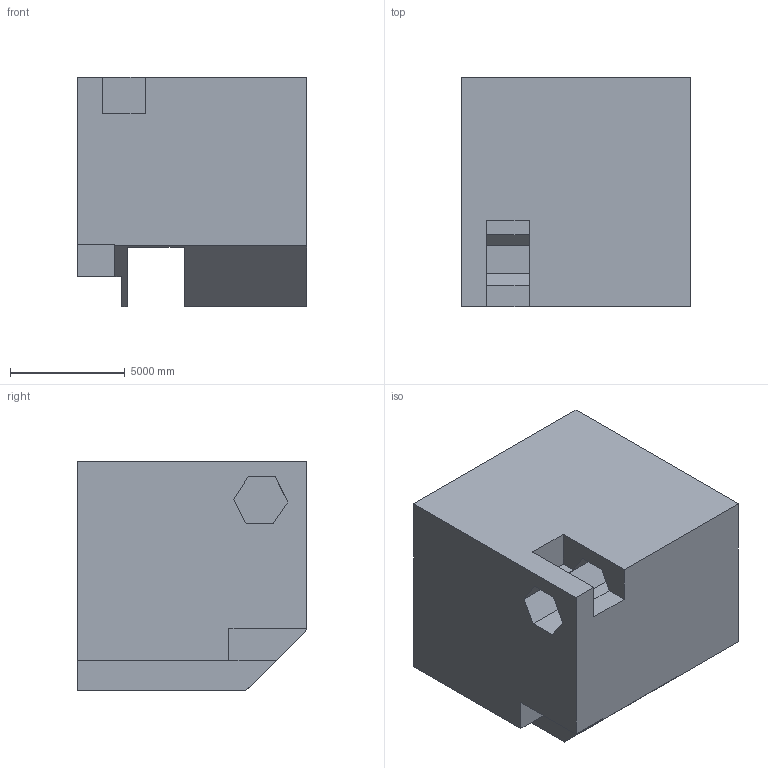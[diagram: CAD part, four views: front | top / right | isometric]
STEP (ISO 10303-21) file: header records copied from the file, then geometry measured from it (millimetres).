
FILE_DESCRIPTION (( 'STEP AP203' ), '1' );
FILE_NAME ('1526.STEP', '2022-08-18T15:03:44', ( 'user' ), ( '' ), 'SwSTEP 2.0', 'SolidWorks 2021', '' );
FILE_SCHEMA (( 'CONFIG_CONTROL_DESIGN' ));
Length unit declared in the file: centimetre
Products named in the file (1): 1526
Bounding box: 10000 x 10000 x 10000 mm (x, y, z)
Volume: 851547057237.2 mm3; surface area: 654613996 mm2
Topology: 1 solids, 1 shells, 29 faces, 84 edges, 56 vertices
Faces by surface type: plane 29
Entity records: 1019 total; most frequent: CARTESIAN_POINT 170, ORIENTED_EDGE 168, DIRECTION 144, LINE 84, VECTOR 84, EDGE_CURVE 84, VERTEX_POINT 56, EDGE_LOOP 30
